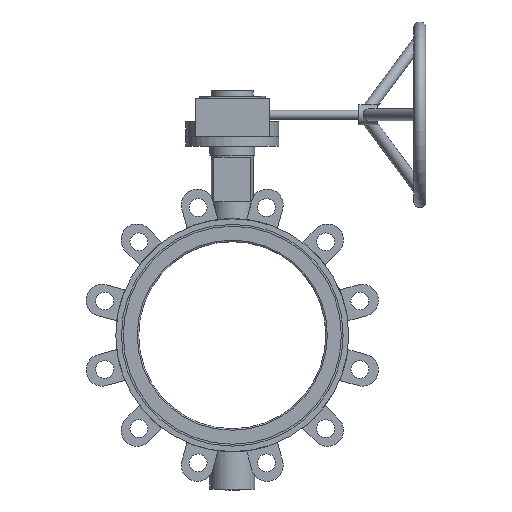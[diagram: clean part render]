
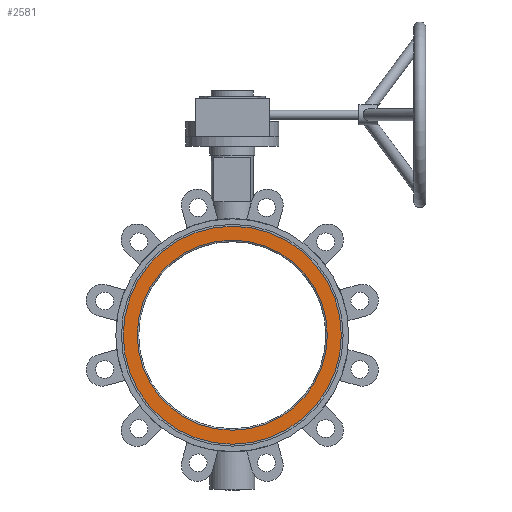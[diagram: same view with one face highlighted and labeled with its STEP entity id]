
A CAD part, front view. The second image highlights one B-rep face of the part: STEP entity #2581.
In plain terms, the highlighted planar face has unit normal (0, -1, 0) as drawn and (-1, 0, 0) by its records, which use the part's own axes.
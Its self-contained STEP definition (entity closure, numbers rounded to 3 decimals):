
#485 = VERTEX_POINT ( 'NONE', #6930 ) ;
#526 = DIRECTION ( 'NONE',  ( 0., 1., 0. ) ) ;
#615 = DIRECTION ( 'NONE',  ( 0., -1., 0. ) ) ;
#2249 = ORIENTED_EDGE ( 'NONE', *, *, #7860, .F. ) ;
#2581 = ADVANCED_FACE ( 'NONE', ( #2900, #4284 ), #3624, .F. ) ;
#2900 = FACE_BOUND ( 'NONE', #3176, .T. ) ;
#3051 = AXIS2_PLACEMENT_3D ( 'NONE', #4477, #8378, #615 ) ;
#3094 = CARTESIAN_POINT ( 'NONE',  ( 3261.013, 1259.383, 0. ) ) ;
#3176 = EDGE_LOOP ( 'NONE', ( #2249 ) ) ;
#3352 = ORIENTED_EDGE ( 'NONE', *, *, #6129, .T. ) ;
#3624 = PLANE ( 'NONE',  #4690 ) ;
#4265 = CIRCLE ( 'NONE', #3051, 127.711 ) ;
#4284 = FACE_OUTER_BOUND ( 'NONE', #5465, .T. ) ;
#4361 = DIRECTION ( 'NONE',  ( 1., 0., 0. ) ) ;
#4477 = CARTESIAN_POINT ( 'NONE',  ( 3261.013, 1112.881, 0. ) ) ;
#4690 = AXIS2_PLACEMENT_3D ( 'NONE', #3094, #4361, #526 ) ;
#5193 = CIRCLE ( 'NONE', #7686, 146.502 ) ;
#5465 = EDGE_LOOP ( 'NONE', ( #3352 ) ) ;
#5673 = CARTESIAN_POINT ( 'NONE',  ( 3261.013, 966.379, 0. ) ) ;
#6129 = EDGE_CURVE ( 'NONE', #7944, #7944, #5193, .T. ) ;
#6426 = CARTESIAN_POINT ( 'NONE',  ( 3261.013, 1112.881, 0. ) ) ;
#6480 = DIRECTION ( 'NONE',  ( 0., -1., 0. ) ) ;
#6930 = CARTESIAN_POINT ( 'NONE',  ( 3261.013, 985.171, 0. ) ) ;
#7686 = AXIS2_PLACEMENT_3D ( 'NONE', #6426, #7773, #6480 ) ;
#7773 = DIRECTION ( 'NONE',  ( -1., 0., 0. ) ) ;
#7860 = EDGE_CURVE ( 'NONE', #485, #485, #4265, .T. ) ;
#7944 = VERTEX_POINT ( 'NONE', #5673 ) ;
#8378 = DIRECTION ( 'NONE',  ( -1., 0., 0. ) ) ;
